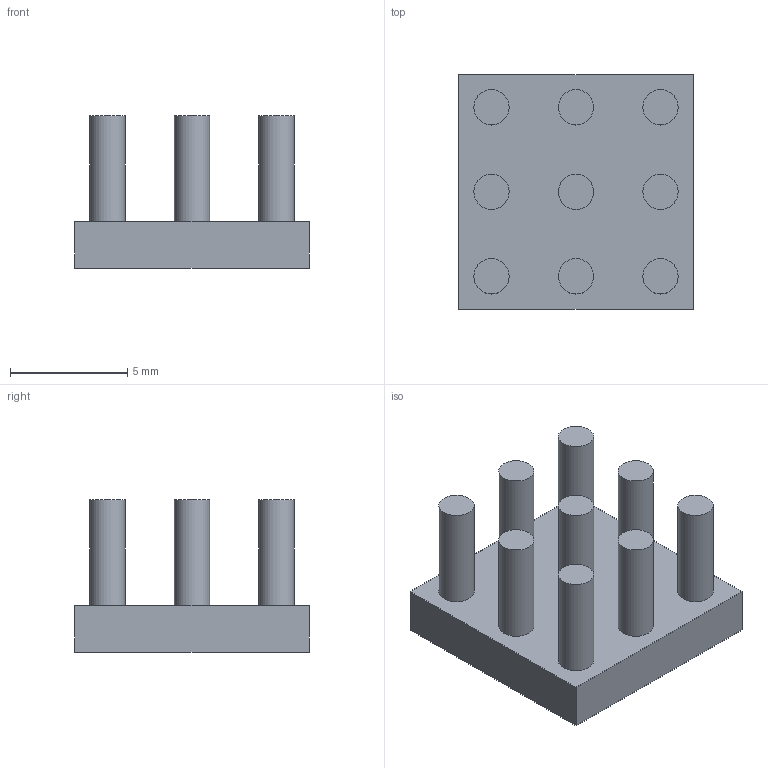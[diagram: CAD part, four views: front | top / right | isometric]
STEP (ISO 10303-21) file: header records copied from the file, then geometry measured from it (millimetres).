
FILE_DESCRIPTION(/* description */ (''),/* implementation_level */ '2;1');
FILE_NAME(/* name */ 'PB1010-B2-H6.5-P9.stp',/* time_stamp */ '2013-12-30T13:17:39+08:00',/* author */ (''),/* organization */ (''),/* preprocessor_version */ 'ST-DEVELOPER v14',/* originating_system */ 'SIEMENS PLM Software NX 8.0',/* authorisation */ '');
FILE_SCHEMA (('CONFIG_CONTROL_DESIGN'));
Length unit declared in the file: millimetre
Products named in the file (1): PB1010-P9
Bounding box: 10 x 10 x 6.5 mm (x, y, z)
Volume: 271.6 mm3; surface area: 470.9 mm2
Topology: 1 solids, 1 shells, 24 faces, 39 edges, 26 vertices
Faces by surface type: plane 15, cylinder 9
Full cylindrical faces by diameter (mm): 1.5 x9
Entity records: 600 total; most frequent: DIRECTION 98, CARTESIAN_POINT 81, ORIENTED_EDGE 60, AXIS2_PLACEMENT_3D 43, EDGE_LOOP 42, EDGE_CURVE 30, FACE_BOUND 28, VERTEX_POINT 26
